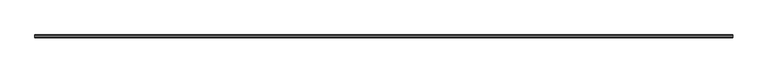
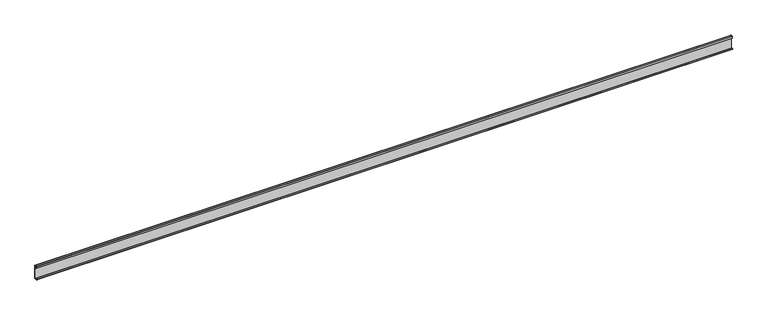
"""IFC4 building model written with IfcOpenShell, lengths in millimetres: proxy geometry, Weiku - Montante - Capa de folha 02.3.02.406 : Weiku - Montante - Capa de folha 02.3.02.406."""

from ifc_helpers import new_model, si_unit, point, frame, frame_2d, origin, place, context, project, spatial, polyline, circle_curve, trimmed, segment, composite_curve, outline, extrude, source, transform, mapped, element, save


def generic_models_dc6292b3(model_context):
    return source(origin(), model_context, "Body", "SweptSolid", [
        extrude(outline(composite_curve([segment(polyline([(-4.6421508, 2.2715508), (-3.3866, 1.016), (-1.6933, 1.016), (-1.6933, 25.684), (-3.3063, 25.684), (-3.3063, 22.3396), (-4.28, 22.3396), (-4.28, 26.2)]), True, "CONTINUOUS"), segment(trimmed(circle_curve(frame_2d((-3.78, 26.2)), 0.5), [point((-4.28, 26.2))], [point((-3.78, 26.7))], False, "CARTESIAN"), True, "CONTINUOUS"), segment(polyline([(-3.78, 26.7), (-0.5, 26.7)]), True, "CONTINUOUS"), segment(trimmed(circle_curve(frame_2d((-0.5, 26.2)), 0.5), [point((-0.5, 26.7))], [point((0.0, 26.2))], False, "CARTESIAN"), True, "CONTINUOUS"), segment(polyline([(0.0, 26.2), (0.0, 0.5)]), True, "CONTINUOUS"), segment(trimmed(circle_curve(frame_2d((-0.5, 0.5)), 0.5), [point((0.0, 0.5))], [point((-0.5, 0.0))], False, "CARTESIAN"), True, "CONTINUOUS"), segment(polyline([(-0.5, 0.0), (-4.7576991, 0.0)]), True, "CONTINUOUS"), segment(trimmed(circle_curve(frame_2d((-4.7576991, 0.7)), 0.7), [point((-4.7576991, 0.0))], [point((-5.3603515, 1.056104))], False, "CARTESIAN"), True, "CONTINUOUS"), segment(polyline([(-5.3603515, 1.056104), (-4.6421508, 2.2715508)]), True, "CONTINUOUS")], self_intersect=False)), frame((-670.4333333, 0.0, 0.0), z_axis=(1.0, 0.0, 0.0), x_axis=(0.0, 1.0, 0.0)), (0.0, 0.0, 1.0), 1340.8666667),
    ])


if __name__ == "__main__":
    model = new_model("IFC4")
    model_context = context("Model", 3, world=origin())
    ifc_project = project(units=[si_unit("LENGTHUNIT", "METRE", prefix="MILLI")], contexts=[model_context])
    site = spatial("IfcSite", under=ifc_project)
    building = spatial("IfcBuilding", under=site)
    placement = place(None, origin())
    generic_models_shape = generic_models_dc6292b3(model_context)
    element("IfcBuildingElementProxy", 1, Name="Weiku - Montante - Capa de folha 02.3.02.406 : Weiku - Montante - Capa de folha 02.3.02.406", ObjectType="Weiku - Montante - Capa de folha 02.3.02.406 : Weiku - Montante - Capa de folha 02.3.02.406", at=placement, inside=building, context=model_context, shape_type="MappedRepresentation", body=[
        mapped(generic_models_shape, transform((0.0, 0.0, 0.0), x_axis=(1.0, 0.0, 0.0), y_axis=(0.0, 1.0, 0.0), z_axis=(0.0, 0.0, 1.0))),
    ])
    save(model, "model.ifc")
